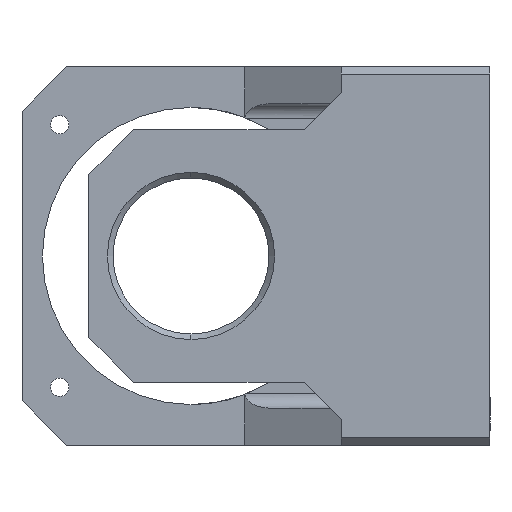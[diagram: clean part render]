
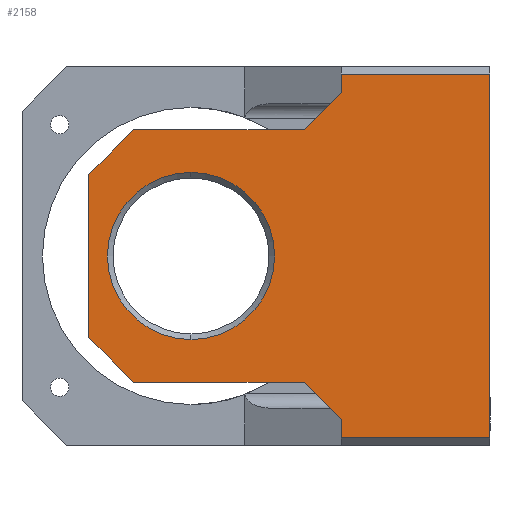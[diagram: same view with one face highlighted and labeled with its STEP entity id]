
A CAD part, left-side view. The second image highlights one B-rep face of the part: STEP entity #2158.
In plain terms, the highlighted planar face has unit normal (-1, 0, 0).
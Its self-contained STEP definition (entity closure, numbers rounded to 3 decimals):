
#27 = CARTESIAN_POINT ( 'NONE',  ( -21.5, -4., -34. ) ) ;
#71 = FACE_OUTER_BOUND ( 'NONE', #128, .T. ) ;
#79 = CARTESIAN_POINT ( 'NONE',  ( -21.5, -54., 34. ) ) ;
#99 = LINE ( 'NONE', #1842, #284 ) ;
#100 = VERTEX_POINT ( 'NONE', #2280 ) ;
#128 = EDGE_LOOP ( 'NONE', ( #2434, #888, #770, #1121, #2169, #422, #1826, #1725, #537, #1728, #1433, #290 ) ) ;
#130 = VECTOR ( 'NONE', #2078, 1000. ) ;
#149 = EDGE_CURVE ( 'NONE', #1771, #100, #2481, .T. ) ;
#181 = VECTOR ( 'NONE', #2426, 1000. ) ;
#200 = EDGE_LOOP ( 'NONE', ( #1787, #1886 ) ) ;
#208 = CARTESIAN_POINT ( 'NONE',  ( -21.5, -54., 49. ) ) ;
#226 = CARTESIAN_POINT ( 'NONE',  ( -21.5, 54., 34. ) ) ;
#240 = EDGE_CURVE ( 'NONE', #272, #1771, #555, .T. ) ;
#259 = CARTESIAN_POINT ( 'NONE',  ( -21.5, 26.5, -22.5 ) ) ;
#272 = VERTEX_POINT ( 'NONE', #27 ) ;
#280 = DIRECTION ( 'NONE',  ( 0., 1., 0. ) ) ;
#284 = VECTOR ( 'NONE', #280, 1000. ) ;
#287 = CARTESIAN_POINT ( 'NONE',  ( -21.5, 42., -34. ) ) ;
#290 = ORIENTED_EDGE ( 'NONE', *, *, #1254, .T. ) ;
#364 = VERTEX_POINT ( 'NONE', #1581 ) ;
#390 = DIRECTION ( 'NONE',  ( 0., 0.707, -0.707 ) ) ;
#395 = CARTESIAN_POINT ( 'NONE',  ( -21.5, -14., 34. ) ) ;
#422 = ORIENTED_EDGE ( 'NONE', *, *, #960, .T. ) ;
#423 = DIRECTION ( 'NONE',  ( 0., -1., 0. ) ) ;
#442 = VERTEX_POINT ( 'NONE', #476 ) ;
#448 = VERTEX_POINT ( 'NONE', #287 ) ;
#462 = EDGE_CURVE ( 'NONE', #2083, #860, #2484, .T. ) ;
#476 = CARTESIAN_POINT ( 'NONE',  ( -21.5, -54., -49. ) ) ;
#480 = EDGE_CURVE ( 'NONE', #903, #807, #99, .T. ) ;
#493 = EDGE_CURVE ( 'NONE', #860, #2083, #1933, .T. ) ;
#535 = AXIS2_PLACEMENT_3D ( 'NONE', #1263, #1860, #2251 ) ;
#537 = ORIENTED_EDGE ( 'NONE', *, *, #1145, .F. ) ;
#555 = LINE ( 'NONE', #1075, #961 ) ;
#633 = DIRECTION ( 'NONE',  ( 0., -1., 0. ) ) ;
#660 = DIRECTION ( 'NONE',  ( 0., 0., -1. ) ) ;
#699 = DIRECTION ( 'NONE',  ( 1., 0., 0. ) ) ;
#757 = CARTESIAN_POINT ( 'NONE',  ( -21.5, 54., -34. ) ) ;
#770 = ORIENTED_EDGE ( 'NONE', *, *, #1895, .T. ) ;
#799 = CARTESIAN_POINT ( 'NONE',  ( -21.5, 54., 34. ) ) ;
#807 = VERTEX_POINT ( 'NONE', #1122 ) ;
#814 = EDGE_CURVE ( 'NONE', #903, #442, #1107, .T. ) ;
#820 = VECTOR ( 'NONE', #390, 1000. ) ;
#860 = VERTEX_POINT ( 'NONE', #259 ) ;
#863 = DIRECTION ( 'NONE',  ( 1., 0., 0. ) ) ;
#888 = ORIENTED_EDGE ( 'NONE', *, *, #480, .T. ) ;
#903 = VERTEX_POINT ( 'NONE', #208 ) ;
#907 = LINE ( 'NONE', #1026, #2258 ) ;
#960 = EDGE_CURVE ( 'NONE', #2189, #364, #1636, .T. ) ;
#961 = VECTOR ( 'NONE', #2351, 1000. ) ;
#1012 = CARTESIAN_POINT ( 'NONE',  ( -21.5, -14., 44. ) ) ;
#1026 = CARTESIAN_POINT ( 'NONE',  ( -21.5, -54., -49. ) ) ;
#1075 = CARTESIAN_POINT ( 'NONE',  ( -21.5, 15., -15. ) ) ;
#1078 = LINE ( 'NONE', #226, #1745 ) ;
#1087 = CARTESIAN_POINT ( 'NONE',  ( -21.5, 54., -22. ) ) ;
#1100 = VECTOR ( 'NONE', #633, 1000. ) ;
#1107 = LINE ( 'NONE', #79, #181 ) ;
#1121 = ORIENTED_EDGE ( 'NONE', *, *, #2124, .T. ) ;
#1122 = CARTESIAN_POINT ( 'NONE',  ( -21.5, -14., 49. ) ) ;
#1145 = EDGE_CURVE ( 'NONE', #272, #448, #2335, .T. ) ;
#1158 = DIRECTION ( 'NONE',  ( 0., -0.707, -0.707 ) ) ;
#1177 = DIRECTION ( 'NONE',  ( 0., 0., 1. ) ) ;
#1185 = LINE ( 'NONE', #2291, #130 ) ;
#1254 = EDGE_CURVE ( 'NONE', #100, #442, #907, .T. ) ;
#1263 = CARTESIAN_POINT ( 'NONE',  ( -21.5, 26.5, 0. ) ) ;
#1294 = VERTEX_POINT ( 'NONE', #1451 ) ;
#1309 = VECTOR ( 'NONE', #1158, 1000. ) ;
#1354 = VERTEX_POINT ( 'NONE', #1714 ) ;
#1362 = VECTOR ( 'NONE', #2051, 1000. ) ;
#1420 = CARTESIAN_POINT ( 'NONE',  ( -21.5, -14., -44. ) ) ;
#1433 = ORIENTED_EDGE ( 'NONE', *, *, #149, .T. ) ;
#1451 = CARTESIAN_POINT ( 'NONE',  ( -21.5, 54., -22. ) ) ;
#1540 = VERTEX_POINT ( 'NONE', #1012 ) ;
#1550 = EDGE_CURVE ( 'NONE', #1294, #364, #1078, .T. ) ;
#1578 = CARTESIAN_POINT ( 'NONE',  ( -21.5, -14., -34. ) ) ;
#1581 = CARTESIAN_POINT ( 'NONE',  ( -21.5, 54., 22. ) ) ;
#1596 = FACE_BOUND ( 'NONE', #200, .T. ) ;
#1625 = LINE ( 'NONE', #799, #1100 ) ;
#1636 = LINE ( 'NONE', #2359, #820 ) ;
#1714 = CARTESIAN_POINT ( 'NONE',  ( -21.5, -4., 34. ) ) ;
#1725 = ORIENTED_EDGE ( 'NONE', *, *, #2063, .T. ) ;
#1728 = ORIENTED_EDGE ( 'NONE', *, *, #240, .T. ) ;
#1745 = VECTOR ( 'NONE', #1177, 1000. ) ;
#1759 = CARTESIAN_POINT ( 'NONE',  ( -21.5, 0., 0. ) ) ;
#1760 = LINE ( 'NONE', #395, #2224 ) ;
#1764 = EDGE_CURVE ( 'NONE', #2189, #1354, #1625, .T. ) ;
#1771 = VERTEX_POINT ( 'NONE', #1420 ) ;
#1787 = ORIENTED_EDGE ( 'NONE', *, *, #462, .T. ) ;
#1826 = ORIENTED_EDGE ( 'NONE', *, *, #1550, .F. ) ;
#1840 = CARTESIAN_POINT ( 'NONE',  ( -21.5, 26.5, 22.5 ) ) ;
#1842 = CARTESIAN_POINT ( 'NONE',  ( -21.5, 0., 49. ) ) ;
#1846 = VECTOR ( 'NONE', #2032, 1000. ) ;
#1860 = DIRECTION ( 'NONE',  ( 1., 0., 0. ) ) ;
#1886 = ORIENTED_EDGE ( 'NONE', *, *, #493, .T. ) ;
#1895 = EDGE_CURVE ( 'NONE', #807, #1540, #1760, .T. ) ;
#1933 = CIRCLE ( 'NONE', #535, 22.5 ) ;
#1961 = CARTESIAN_POINT ( 'NONE',  ( -21.5, 42., 34. ) ) ;
#2032 = DIRECTION ( 'NONE',  ( 0., 1., 0. ) ) ;
#2045 = DIRECTION ( 'NONE',  ( 0., 0., -1. ) ) ;
#2051 = DIRECTION ( 'NONE',  ( 0., 0., -1. ) ) ;
#2063 = EDGE_CURVE ( 'NONE', #1294, #448, #2402, .T. ) ;
#2078 = DIRECTION ( 'NONE',  ( 0., 0.707, -0.707 ) ) ;
#2083 = VERTEX_POINT ( 'NONE', #1840 ) ;
#2124 = EDGE_CURVE ( 'NONE', #1540, #1354, #1185, .T. ) ;
#2156 = PLANE ( 'NONE',  #2172 ) ;
#2158 = ADVANCED_FACE ( 'NONE', ( #1596, #71 ), #2156, .F. ) ;
#2169 = ORIENTED_EDGE ( 'NONE', *, *, #1764, .F. ) ;
#2172 = AXIS2_PLACEMENT_3D ( 'NONE', #1759, #699, #660 ) ;
#2189 = VERTEX_POINT ( 'NONE', #1961 ) ;
#2224 = VECTOR ( 'NONE', #2342, 1000. ) ;
#2238 = CARTESIAN_POINT ( 'NONE',  ( -21.5, 26.5, 0. ) ) ;
#2251 = DIRECTION ( 'NONE',  ( 0., 0., -1. ) ) ;
#2258 = VECTOR ( 'NONE', #423, 1000. ) ;
#2280 = CARTESIAN_POINT ( 'NONE',  ( -21.5, -14., -49. ) ) ;
#2291 = CARTESIAN_POINT ( 'NONE',  ( -21.5, 15., 15. ) ) ;
#2298 = AXIS2_PLACEMENT_3D ( 'NONE', #2238, #863, #2045 ) ;
#2335 = LINE ( 'NONE', #757, #1846 ) ;
#2342 = DIRECTION ( 'NONE',  ( 0., 0., -1. ) ) ;
#2351 = DIRECTION ( 'NONE',  ( 0., -0.707, -0.707 ) ) ;
#2359 = CARTESIAN_POINT ( 'NONE',  ( -21.5, 42., 34. ) ) ;
#2402 = LINE ( 'NONE', #1087, #1309 ) ;
#2426 = DIRECTION ( 'NONE',  ( 0., 0., -1. ) ) ;
#2434 = ORIENTED_EDGE ( 'NONE', *, *, #814, .F. ) ;
#2481 = LINE ( 'NONE', #1578, #1362 ) ;
#2484 = CIRCLE ( 'NONE', #2298, 22.5 ) ;
